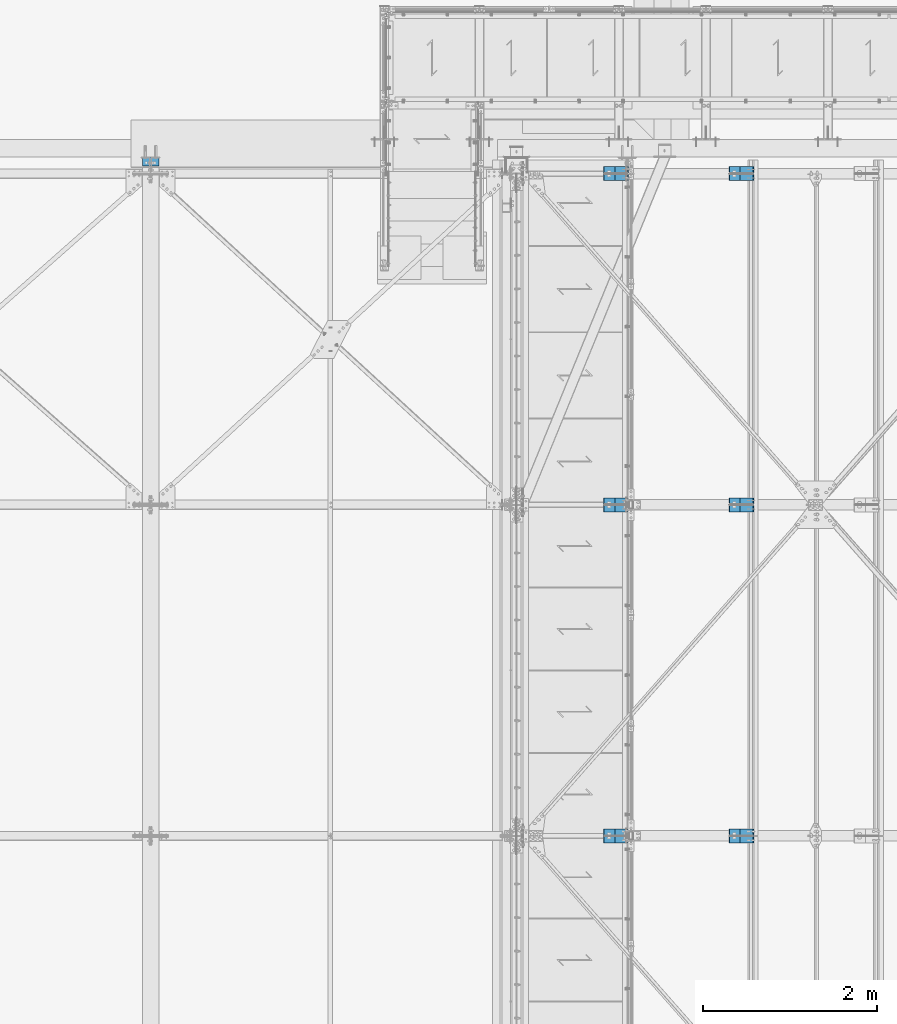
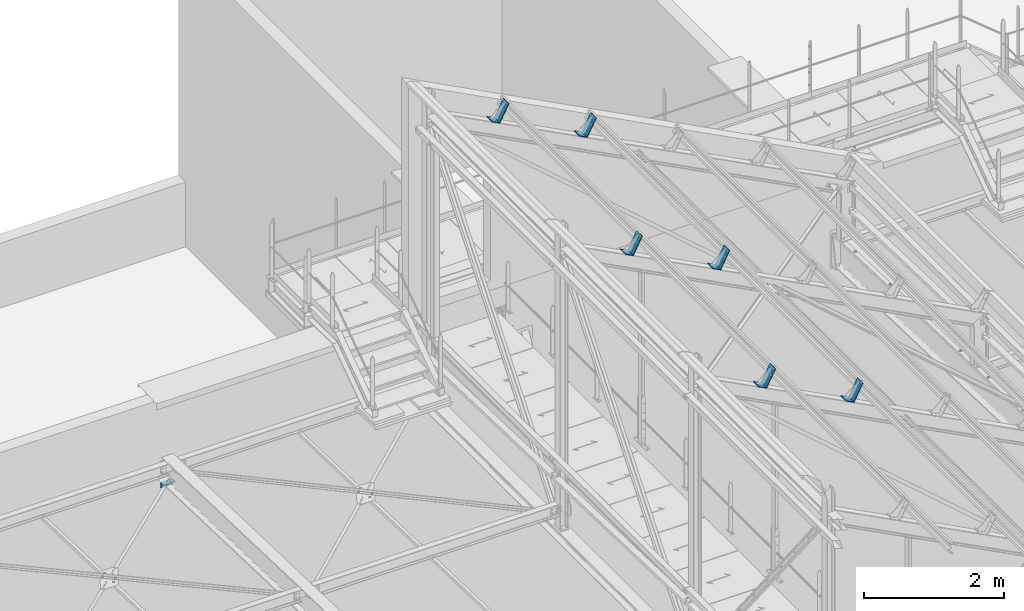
# One storey, part 355 of 362: 7 beams, 7 elements without a shape of their own.
"""IFC2X3 building model written with IfcOpenShell, lengths in millimetres."""

import ifcopenshell
import ifcopenshell.guid

model = None  # the IFC model being written
_history = None  # IfcOwnerHistory: only IFC2X3 demands one
_inside = {}  # id of a spatial element -> (the spatial element, [elements in it])
_under = {}  # id of a project, library or spatial element -> (it, [spatial elements below it])
_declared = {}  # id of a project -> (the project, [libraries it declares])
_typed = {}  # id of a type object -> (the type object, [elements of that type])
_made_of = {}  # id of a material, layer set ... -> (it, [elements and type objects made of it])


def new_model(schema):
    """Start an empty IFC model of exactly this schema.

    Asked for "IFC4X3", IfcOpenShell would pick the latest addendum, in which some entities
    have other attributes; the version numbers below select the first issue.
    IFC2X3 requires an IfcOwnerHistory on every rooted entity: one is made here for all.
    """
    global model, _history
    if schema == "IFC4X3":
        model = ifcopenshell.file(schema_version=(4, 3, 0, 0))
    else:
        model = ifcopenshell.file(schema=schema)
    _inside.clear()
    _under.clear()
    _declared.clear()
    _typed.clear()
    _made_of.clear()
    _history = None
    if model.schema == "IFC2X3":
        org = make("IfcOrganization", Name="unknown")
        user = make(
            "IfcPersonAndOrganization",
            ThePerson=make("IfcPerson", FamilyName="unknown"),
            TheOrganization=org,
        )
        app = make(
            "IfcApplication",
            ApplicationDeveloper=org,
            Version="unknown",
            ApplicationFullName="unknown",
            ApplicationIdentifier="unknown",
        )
        _history = make(
            "IfcOwnerHistory",
            OwningUser=user,
            OwningApplication=app,
            ChangeAction="ADDED",
            CreationDate=0,
        )
    return model


def make(cls, **values):
    """One entity of the class cls with the attributes given. An attribute that is None is left unset."""
    return model.create_entity(
        cls, **{name: value for name, value in values.items() if value is not None}
    )


def rooted(cls, **values):
    """An entity with a GlobalId (a new one), such as an element, a storey or a relation."""
    return make(cls, GlobalId=ifcopenshell.guid.new(), OwnerHistory=_history, **values)


def si_unit(unit_type, name, prefix=None):
    """IfcSIUnit, for example si_unit("LENGTHUNIT", "METRE", prefix="MILLI")."""
    return make("IfcSIUnit", UnitType=unit_type, Prefix=prefix, Name=name)


def assignment(units):
    """IfcUnitAssignment: the units of a project."""
    return None if units is None else make("IfcUnitAssignment", Units=units)


def point(xyz):
    """IfcCartesianPoint."""
    return None if xyz is None else make("IfcCartesianPoint", Coordinates=xyz)


def direction(xyz):
    """IfcDirection."""
    return None if xyz is None else make("IfcDirection", DirectionRatios=xyz)


def frame(location, z_axis=None, x_axis=None):
    """IfcAxis2Placement3D, a coordinate frame: its origin and axes. An axis left out is left unset."""
    return make(
        "IfcAxis2Placement3D",
        Location=point(location),
        Axis=direction(z_axis),
        RefDirection=direction(x_axis),
    )


def origin_with_axes():
    """The frame at (0, 0, 0) with the z axis (0, 0, 1) and the x axis (1, 0, 0) written out."""
    return frame((0.0, 0.0, 0.0), z_axis=(0.0, 0.0, 1.0), x_axis=(1.0, 0.0, 0.0))


def place(relative_to, where):
    """IfcLocalPlacement: puts the frame where relative to a parent placement (None: the world)."""
    return make(
        "IfcLocalPlacement", PlacementRelTo=relative_to, RelativePlacement=where
    )


def context(
    kind, dimensions, precision=None, world=None, true_north=None, identifier=None
):
    """IfcGeometricRepresentationContext, for example the 3D "Model" context."""
    return make(
        "IfcGeometricRepresentationContext",
        ContextIdentifier=identifier,
        ContextType=kind,
        CoordinateSpaceDimension=dimensions,
        Precision=precision,
        WorldCoordinateSystem=world,
        TrueNorth=true_north,
    )


def subcontext(parent, identifier, kind, view, scale=None):
    """IfcGeometricRepresentationSubContext, for example "Body" below "Model"."""
    return make(
        "IfcGeometricRepresentationSubContext",
        ContextIdentifier=identifier,
        ContextType=kind,
        ParentContext=parent,
        TargetScale=scale,
        TargetView=view,
    )


def project(units=None, contexts=None):
    """IfcProject with its units and contexts."""
    return rooted(
        "IfcProject",
        Name="project",
        RepresentationContexts=contexts,
        UnitsInContext=assignment(units),
    )


def spatial(cls, under=None, at=None, **own):
    """A site, building, storey or space (cls), placed at a placement, below another one or the project."""
    s = rooted(cls, ObjectPlacement=at, **own)
    if under is not None:
        _under.setdefault(under.id(), (under, []))[1].append(s)
    return s


def faces_of(points, faces, orient=None, outer=None):
    """IfcFace entities. A face is a list of loops; a loop is a list of indices into points, from 0.

    orient and outer hold one flag for each loop. By default every Orientation is true, the
    first loop of a face is its IfcFaceOuterBound and the others are IfcFaceBound.
    """
    made = []
    for i, loops in enumerate(faces):
        bounds = []
        for j, loop in enumerate(loops):
            is_outer = j == 0 if outer is None else outer[i][j]
            bounds.append(
                make(
                    "IfcFaceOuterBound" if is_outer else "IfcFaceBound",
                    Bound=make("IfcPolyLoop", Polygon=[points[k] for k in loop]),
                    Orientation=True if orient is None else orient[i][j],
                )
            )
        made.append(make("IfcFace", Bounds=bounds))
    return made


def faceted_brep(points, faces, orient=None, outer=None, voids=None):
    """IfcFacetedBrep: a solid bounded by flat faces; with voids (closed shells), ...WithVoids."""
    shared = [point(p) for p in points]
    hull = make("IfcClosedShell", CfsFaces=faces_of(shared, faces, orient, outer))
    if voids is None:
        return make("IfcFacetedBrep", Outer=hull)
    return make(
        "IfcFacetedBrepWithVoids",
        Outer=hull,
        Voids=[
            make(cls, CfsFaces=faces_of(shared, fs, o, b)) for cls, fs, o, b in voids
        ],
    )


def shape(context_of_items, identifier, shape_type, items):
    """IfcShapeRepresentation: the items that make up one representation, for example the "Body"."""
    return make(
        "IfcShapeRepresentation",
        ContextOfItems=context_of_items,
        RepresentationIdentifier=identifier,
        RepresentationType=shape_type,
        Items=items,
    )


def material(Name=None, Category=None):
    """IfcMaterial."""
    return make("IfcMaterial", Name=Name, Category=Category)


def made_of(thing, what):
    """Note that an element or type object is made of a material, layer set ...; save() writes the relation."""
    if what is not None:
        _made_of.setdefault(what.id(), (what, []))[1].append(thing)
    return thing


def type_object(cls, material=None, **own):
    """A type object (cls), such as IfcWallType, which elements share."""
    return made_of(rooted(cls, **own), material)


def element(
    cls,
    number,
    at=None,
    inside=None,
    cuts=None,
    type_object=None,
    material=None,
    context=None,
    identifier="Body",
    shape_type=None,
    held_by="IfcProductDefinitionShape",
    body=None,
    shapes=None,
    **own,
):
    """One element of the class cls, such as IfcWall. Its Tag is "e" and its number.

    at: its placement. inside: the storey or other place that contains it. cuts: it is an
    opening in that element (IfcRelVoidsElement). A single representation is given by context,
    identifier, shape_type and body (its items); several are given by shapes. held_by: the class
    of the entity that holds the representations. save() writes the other relations.
    """
    e = rooted(cls, Tag="e%d" % number, ObjectPlacement=at, **own)
    if body is not None:
        shapes = [shape(context, identifier, shape_type, body)]
    if shapes is not None:
        e.Representation = make(held_by, Representations=shapes)
    if inside is not None:
        _inside.setdefault(inside.id(), (inside, []))[1].append(e)
    if cuts is not None:
        rooted(
            "IfcRelVoidsElement", RelatingBuildingElement=cuts, RelatedOpeningElement=e
        )
    if type_object is not None:
        _typed.setdefault(type_object.id(), (type_object, []))[1].append(e)
    return made_of(e, material)


def aggregate(whole, parts):
    """IfcRelAggregates: a whole, such as a stair, and the parts it consists of."""
    return rooted("IfcRelAggregates", RelatingObject=whole, RelatedObjects=parts)


def save(model, path):
    """Write the relations noted so far, then the file.

    IfcRelAggregates (storeys below a building ...), IfcRelContainedInSpatialStructure (elements
    in a storey), IfcRelDefinesByType, IfcRelAssociatesMaterial and IfcRelDeclares: one each for
    every whole, place, type object, material and project.
    """
    for whole, parts in _under.values():
        aggregate(whole, parts)
    for where, things in _inside.values():
        rooted(
            "IfcRelContainedInSpatialStructure",
            RelatedElements=things,
            RelatingStructure=where,
        )
    for kind, things in _typed.values():
        rooted("IfcRelDefinesByType", RelatedObjects=things, RelatingType=kind)
    for what, things in _made_of.values():
        rooted("IfcRelAssociatesMaterial", RelatedObjects=things, RelatingMaterial=what)
    for by, libraries in _declared.values():
        rooted("IfcRelDeclares", RelatingContext=by, RelatedDefinitions=libraries)
    model.write(path)


model = new_model("IFC2X3")

# Units and contexts
model_context = context("Model", 3, precision=1e-05, world=origin_with_axes())
body_context = subcontext(model_context, "Body", "Model", "MODEL_VIEW")
ifc_project = project(units=[si_unit("LENGTHUNIT", "METRE", prefix="MILLI"), si_unit("AREAUNIT", "SQUARE_METRE"), si_unit("VOLUMEUNIT", "CUBIC_METRE"), si_unit("MASSUNIT", "GRAM", prefix="KILO"), si_unit("TIMEUNIT", "SECOND"), si_unit("PLANEANGLEUNIT", "RADIAN"), si_unit("SOLIDANGLEUNIT", "STERADIAN"), si_unit("THERMODYNAMICTEMPERATUREUNIT", "DEGREE_CELSIUS"), si_unit("LUMINOUSINTENSITYUNIT", "LUMEN")], contexts=[model_context])

# Site, building, storey
site_placement = place(None, origin_with_axes())
site = spatial("IfcSite", under=ifc_project, at=site_placement, Name="Undefined", CompositionType="ELEMENT")
building_placement = place(site_placement, origin_with_axes())
building = spatial("IfcBuilding", under=site, at=building_placement, Name="Undefined", CompositionType="ELEMENT")
storey_placement = place(building_placement, origin_with_axes())
storey = spatial("IfcBuildingStorey", under=building, at=storey_placement, Name="Undefined", CompositionType="ELEMENT", Elevation=0.0)

# Assembly, beam
assembly_1_placement = place(storey_placement, origin_with_axes())
assembly_1 = element("IfcElementAssembly", 1, at=assembly_1_placement, inside=storey, Name="PANNE SHED", AssemblyPlace="NOTDEFINED", PredefinedType="NOTDEFINED")
ifc_material = material(Name="Undefined/S235-E24")
beam_type_1 = type_object("IfcBeamType", Name="PL10*160", PredefinedType="NOTDEFINED")
beam_1_placement = place(assembly_1_placement, frame((13962.1917330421, 7600.0000408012, 11908.3024917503), z_axis=(0.0, -1.0, 0.0), x_axis=(-0.463528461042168, 0.0, -0.886082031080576)))
beam_1 = element("IfcBeam", 2, at=beam_1_placement, type_object=beam_type_1, material=ifc_material, Name="PANNE SHED", ObjectType="PL10*160", context=body_context, shape_type="Brep", body=[
    faceted_brep([(5.07934601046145e-08, -5.00000000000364, -80.0), (5.081164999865e-08, -5.0, 80.0), (-5.08007360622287e-08, 5.0, 79.9999999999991), (-5.0815287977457e-08, 4.99999999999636, -80.0000000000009), (329.999999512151, 5.00000335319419, 79.99999999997), (329.999999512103, 5.00000335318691, -80.00000000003), (319.999998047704, -4.9999967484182, -80.0000000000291), (319.999998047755, -4.99999674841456, 79.9999999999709), (330.000011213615, -145.000008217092, 80.0000000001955), (330.000011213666, -145.000008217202, -79.9999999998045), (320.000011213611, -145.000008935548, 80.0000000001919), (320.000011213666, -145.000008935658, -79.9999999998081)], [[[0, 1, 2, 3]], [[3, 2, 4, 5]], [[1, 0, 6, 7]], [[5, 4, 8, 9]], [[4, 2, 1, 7, 10, 8]], [[7, 6, 11, 10]], [[6, 0, 3, 5, 9, 11]], [[10, 11, 9, 8]]]),
])
aggregate(assembly_1, [beam_1])

assembly_2_placement = place(storey_placement, origin_with_axes())
assembly_2 = element("IfcElementAssembly", 3, at=assembly_2_placement, inside=storey, Name="PANNE SHED", AssemblyPlace="NOTDEFINED", PredefinedType="NOTDEFINED")
beam_2_placement = place(assembly_2_placement, frame((15399.4917756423, 7600.0000408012, 11156.4202015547), z_axis=(0.0, -1.0, 0.0), x_axis=(-0.463528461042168, 0.0, -0.886082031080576)))
beam_2 = element("IfcBeam", 4, at=beam_2_placement, type_object=beam_type_1, material=ifc_material, Name="PANNE SHED", ObjectType="PL10*160", context=body_context, shape_type="Brep", body=[
    faceted_brep([(5.07934601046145e-08, -5.00000000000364, -80.0), (5.081164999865e-08, -5.0, 80.0), (-5.08007360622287e-08, 5.0, 79.9999999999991), (-5.0815287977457e-08, 4.99999999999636, -80.0000000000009), (329.999999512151, 5.00000335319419, 79.99999999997), (329.999999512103, 5.00000335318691, -80.00000000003), (319.999998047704, -4.9999967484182, -80.0000000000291), (319.999998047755, -4.99999674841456, 79.9999999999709), (330.000011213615, -145.000008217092, 80.0000000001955), (330.000011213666, -145.000008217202, -79.9999999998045), (320.000011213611, -145.000008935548, 80.0000000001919), (320.000011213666, -145.000008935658, -79.9999999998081)], [[[0, 1, 2, 3]], [[3, 2, 4, 5]], [[1, 0, 6, 7]], [[5, 4, 8, 9]], [[4, 2, 1, 7, 10, 8]], [[7, 6, 11, 10]], [[6, 0, 3, 5, 9, 11]], [[10, 11, 9, 8]]]),
])
aggregate(assembly_2, [beam_2])

assembly_3_placement = place(storey_placement, origin_with_axes())
assembly_3 = element("IfcElementAssembly", 5, at=assembly_3_placement, inside=storey, Name="PANNE SHED", AssemblyPlace="NOTDEFINED", PredefinedType="NOTDEFINED")
beam_3_placement = place(assembly_3_placement, frame((13962.1917528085, 15200.0000408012, 11908.3024814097), z_axis=(0.0, -1.0, 0.0), x_axis=(-0.463528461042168, 0.0, -0.886082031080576)))
beam_3 = element("IfcBeam", 6, at=beam_3_placement, type_object=beam_type_1, material=ifc_material, Name="PANNE SHED", ObjectType="PL10*160", context=body_context, shape_type="Brep", body=[
    faceted_brep([(5.07934601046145e-08, -5.00000000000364, -80.0), (5.081164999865e-08, -5.0, 80.0), (-5.08007360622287e-08, 5.0, 79.9999999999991), (-5.0815287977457e-08, 4.99999999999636, -80.0000000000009), (329.999999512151, 5.00000335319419, 79.99999999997), (329.999999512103, 5.00000335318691, -80.00000000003), (319.999998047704, -4.9999967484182, -80.0000000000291), (319.999998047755, -4.99999674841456, 79.9999999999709), (330.000011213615, -145.000008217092, 80.0000000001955), (330.000011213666, -145.000008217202, -79.9999999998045), (320.000011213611, -145.000008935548, 80.0000000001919), (320.000011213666, -145.000008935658, -79.9999999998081)], [[[0, 1, 2, 3]], [[3, 2, 4, 5]], [[1, 0, 6, 7]], [[5, 4, 8, 9]], [[4, 2, 1, 7, 10, 8]], [[7, 6, 11, 10]], [[6, 0, 3, 5, 9, 11]], [[10, 11, 9, 8]]]),
])
aggregate(assembly_3, [beam_3])

assembly_4_placement = place(storey_placement, origin_with_axes())
assembly_4 = element("IfcElementAssembly", 7, at=assembly_4_placement, inside=storey, Name="PANNE SHED", AssemblyPlace="NOTDEFINED", PredefinedType="NOTDEFINED")
beam_4_placement = place(assembly_4_placement, frame((15399.49179541, 15200.0000408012, 11156.4201912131), z_axis=(0.0, -1.0, 0.0), x_axis=(-0.463528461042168, 0.0, -0.886082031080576)))
beam_4 = element("IfcBeam", 8, at=beam_4_placement, type_object=beam_type_1, material=ifc_material, Name="PANNE SHED", ObjectType="PL10*160", context=body_context, shape_type="Brep", body=[
    faceted_brep([(5.07934601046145e-08, -5.00000000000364, -80.0), (5.081164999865e-08, -5.0, 80.0), (-5.08007360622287e-08, 5.0, 79.9999999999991), (-5.0815287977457e-08, 4.99999999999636, -80.0000000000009), (329.999999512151, 5.00000335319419, 79.99999999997), (329.999999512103, 5.00000335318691, -80.00000000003), (319.999998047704, -4.9999967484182, -80.0000000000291), (319.999998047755, -4.99999674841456, 79.9999999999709), (330.000011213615, -145.000008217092, 80.0000000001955), (330.000011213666, -145.000008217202, -79.9999999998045), (320.000011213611, -145.000008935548, 80.0000000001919), (320.000011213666, -145.000008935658, -79.9999999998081)], [[[0, 1, 2, 3]], [[3, 2, 4, 5]], [[1, 0, 6, 7]], [[5, 4, 8, 9]], [[4, 2, 1, 7, 10, 8]], [[7, 6, 11, 10]], [[6, 0, 3, 5, 9, 11]], [[10, 11, 9, 8]]]),
])
aggregate(assembly_4, [beam_4])

assembly_5_placement = place(storey_placement, origin_with_axes())
assembly_5 = element("IfcElementAssembly", 9, at=assembly_5_placement, inside=storey, Name="PANNE SHED", AssemblyPlace="NOTDEFINED", PredefinedType="NOTDEFINED")
beam_5_placement = place(assembly_5_placement, frame((13962.1917528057, 11400.0000408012, 11908.3024814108), z_axis=(0.0, -1.0, 0.0), x_axis=(-0.463528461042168, 0.0, -0.886082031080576)))
beam_5 = element("IfcBeam", 10, at=beam_5_placement, type_object=beam_type_1, material=ifc_material, Name="PANNE SHED", ObjectType="PL10*160", context=body_context, shape_type="Brep", body=[
    faceted_brep([(5.07934601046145e-08, -5.00000000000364, -80.0), (5.081164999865e-08, -5.0, 80.0), (-5.08007360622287e-08, 5.0, 79.9999999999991), (-5.0815287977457e-08, 4.99999999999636, -80.0000000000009), (329.999999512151, 5.00000335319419, 79.99999999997), (329.999999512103, 5.00000335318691, -80.00000000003), (319.999998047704, -4.9999967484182, -80.0000000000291), (319.999998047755, -4.99999674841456, 79.9999999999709), (330.000011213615, -145.000008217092, 80.0000000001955), (330.000011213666, -145.000008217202, -79.9999999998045), (320.000011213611, -145.000008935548, 80.0000000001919), (320.000011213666, -145.000008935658, -79.9999999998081)], [[[0, 1, 2, 3]], [[3, 2, 4, 5]], [[1, 0, 6, 7]], [[5, 4, 8, 9]], [[4, 2, 1, 7, 10, 8]], [[7, 6, 11, 10]], [[6, 0, 3, 5, 9, 11]], [[10, 11, 9, 8]]]),
])
aggregate(assembly_5, [beam_5])

assembly_6_placement = place(storey_placement, origin_with_axes())
assembly_6 = element("IfcElementAssembly", 11, at=assembly_6_placement, inside=storey, Name="PANNE SHED", AssemblyPlace="NOTDEFINED", PredefinedType="NOTDEFINED")
beam_6_placement = place(assembly_6_placement, frame((15399.4917954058, 11400.0000408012, 11156.4201912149), z_axis=(0.0, -1.0, 0.0), x_axis=(-0.463528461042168, 0.0, -0.886082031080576)))
beam_6 = element("IfcBeam", 12, at=beam_6_placement, type_object=beam_type_1, material=ifc_material, Name="PANNE SHED", ObjectType="PL10*160", context=body_context, shape_type="Brep", body=[
    faceted_brep([(5.07934601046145e-08, -5.00000000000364, -80.0), (5.081164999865e-08, -5.0, 80.0), (-5.08007360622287e-08, 5.0, 79.9999999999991), (-5.0815287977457e-08, 4.99999999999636, -80.0000000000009), (329.999999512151, 5.00000335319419, 79.99999999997), (329.999999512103, 5.00000335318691, -80.00000000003), (319.999998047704, -4.9999967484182, -80.0000000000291), (319.999998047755, -4.99999674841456, 79.9999999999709), (330.000011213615, -145.000008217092, 80.0000000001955), (330.000011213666, -145.000008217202, -79.9999999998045), (320.000011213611, -145.000008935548, 80.0000000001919), (320.000011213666, -145.000008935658, -79.9999999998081)], [[[0, 1, 2, 3]], [[3, 2, 4, 5]], [[1, 0, 6, 7]], [[5, 4, 8, 9]], [[4, 2, 1, 7, 10, 8]], [[7, 6, 11, 10]], [[6, 0, 3, 5, 9, 11]], [[10, 11, 9, 8]]]),
])
aggregate(assembly_6, [beam_6])

assembly_7_placement = place(storey_placement, origin_with_axes())
assembly_7 = element("IfcElementAssembly", 13, at=assembly_7_placement, inside=storey, AssemblyPlace="NOTDEFINED", PredefinedType="NOTDEFINED")
beam_type_2 = type_object("IfcBeamType", Name="PL10*190", PredefinedType="NOTDEFINED")
beam_7_placement = place(assembly_7_placement, frame((8480.0, 15385.0, 7016.12760916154), z_axis=(-1.0, 0.0, 0.0), x_axis=(0.0, 0.0, 1.0)))
beam_7 = element("IfcBeam", 14, at=beam_7_placement, type_object=beam_type_2, material=ifc_material, Name="ATTACHE", ObjectType="PL10*190", context=body_context, shape_type="Brep", body=[
    faceted_brep([(0.0, -5.0, -95.0), (0.0, -5.0, 95.0), (0.0, 5.0, 95.0), (0.0, 5.0, -95.0), (100.000000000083, 5.0, 95.0), (100.000000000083, 5.0, -95.0), (90.3093257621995, -5.0, -95.0), (90.3093257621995, -5.0, 95.0), (103.141075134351, -94.9506530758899, 95.0), (103.141075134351, -94.9506530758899, -95.0), (93.1460095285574, -95.2647605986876, 95.0), (93.1460095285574, -95.2647605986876, -95.0)], [[[0, 1, 2, 3]], [[3, 2, 4, 5]], [[1, 0, 6, 7]], [[5, 4, 8, 9]], [[4, 2, 1, 7, 10, 8]], [[7, 6, 11, 10]], [[6, 0, 3, 5, 9, 11]], [[10, 11, 9, 8]]]),
])
aggregate(assembly_7, [beam_7])

save(model, "model.ifc")
